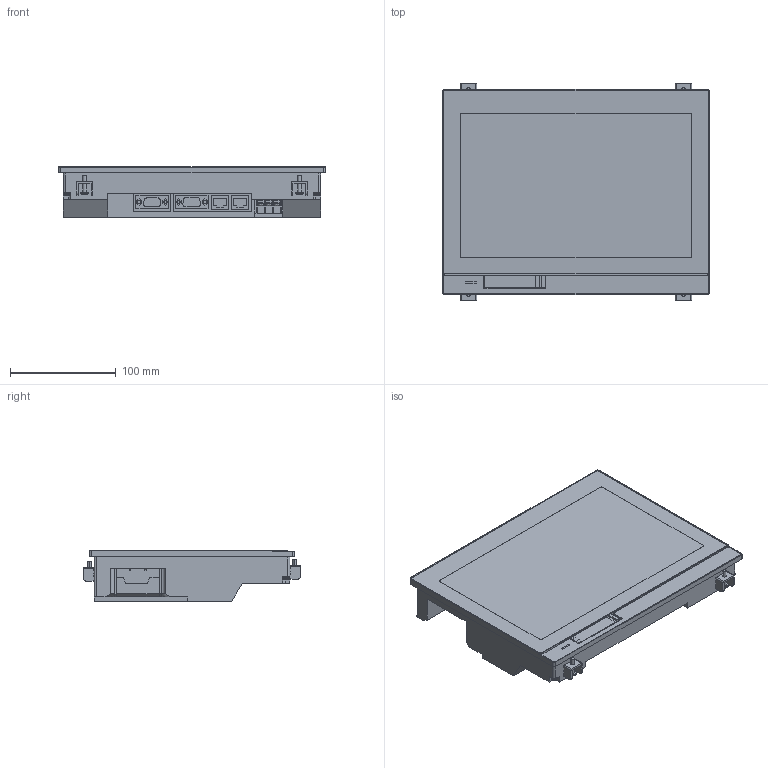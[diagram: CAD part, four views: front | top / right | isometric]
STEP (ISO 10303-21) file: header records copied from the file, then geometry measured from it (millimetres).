
FILE_DESCRIPTION((''),'2;1');
FILE_NAME('GT2510W_A_ASM','2017-02-28T',('QR87550'),(''),'PRO/ENGINEER BY PARAMETRIC TECHNOLOGY CORPORATION, 2014200','PRO/ENGINEER BY PARAMETRIC TECHNOLOGY CORPORATION, 2014200','');
FILE_SCHEMA(('CONFIG_CONTROL_DESIGN'));
Length unit declared in the file: millimetre
Products named in the file (5): GT2510W; COVER_1; COVER_2; TORITUKE; GT2510W_A_ASM
Assembly tree (7 placements, depth 2):
  GT2510W_A_ASM
    GT2510W
    COVER_1
    COVER_2
    TORITUKE  x4
Bounding box: 252 x 205 x 48 mm (x, y, z)
Volume: 1770972.2 mm3; surface area: 165085.3 mm2
Topology: 7 solids, 10 shells, 791 faces, 2055 edges, 1366 vertices
Faces by surface type: plane 525, cylinder 228, cone 16, torus 16, bspline 6
Entity records: 19234 total; most frequent: CARTESIAN_POINT 3466, DIRECTION 3249, ORIENTED_EDGE 3222, EDGE_CURVE 1611, VECTOR 1211, LINE 1211, VERTEX_POINT 1072, AXIS2_PLACEMENT_3D 1019
